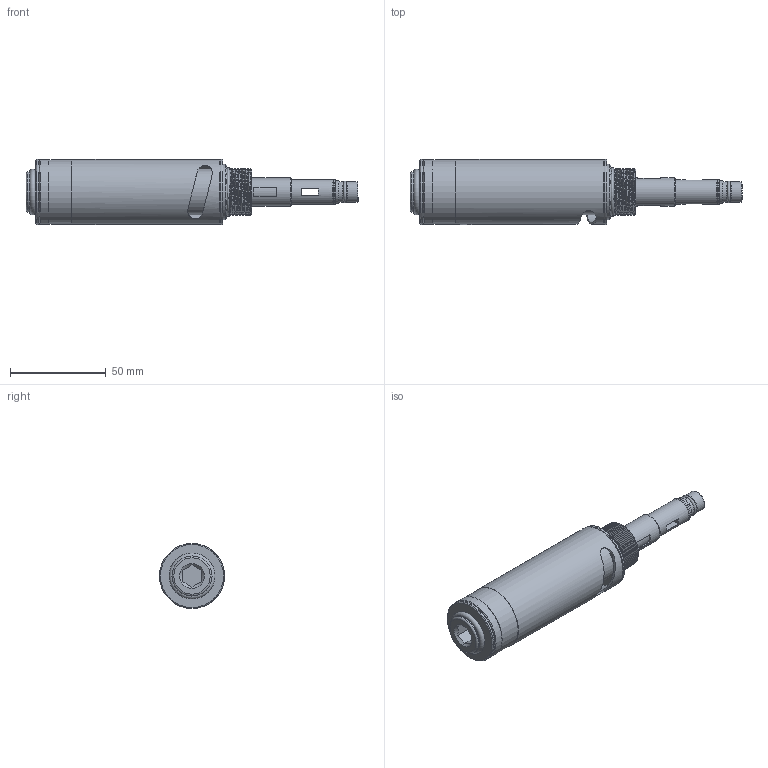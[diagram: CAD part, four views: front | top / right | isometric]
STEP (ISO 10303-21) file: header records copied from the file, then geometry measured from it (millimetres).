
FILE_DESCRIPTION( ( 'STEP AP203' ), '1' );
FILE_NAME( 'D:/撲啗紫賊-02/撲啗紫賊-02/project-06/Vacuum Cartridge-3D/VCL303S.stp', '2007-05-25T06:09:31', ( ' ' ), ( ' ' ), 'XStep 1.0', ' ', ' ' );
FILE_SCHEMA( ( 'CONFIG_CONTROL_DESIGN) ( )' ) );
Length unit declared in the file: metre
Products named in the file (2): 1; 2
Bounding box: 173.6 x 34 x 34 mm (x, y, z)
Volume: 69895.6 mm3; surface area: 41567 mm2
Topology: 2 solids, 2 shells, 118 faces, 236 edges, 149 vertices
Faces by surface type: plane 51, cylinder 32, torus 24, cone 8, bspline 3
Full cylindrical faces by diameter (mm): 4 x1, 5.5 x1, 7 x1, 8.5 x2, 9 x1, 10.8 x2, 11.9 x1, 13 x1, 13.1 x1, 15 x1, 17 x1, 18 x2, 20 x1, 21 x1, 23.9 x1, 29 x1, 31.6 x1, 33.163 x1, 33.537 x1, 33.6 x1, 34 x4
Entity records: 4756 total; most frequent: CARTESIAN_POINT 2417, DIRECTION 487, ORIENTED_EDGE 352, AXIS2_PLACEMENT_3D 222, EDGE_LOOP 210, EDGE_CURVE 176, FACE_OUTER_BOUND 169, VERTEX_POINT 146
